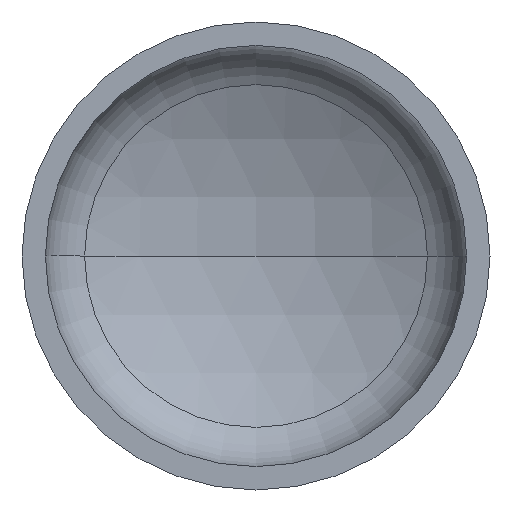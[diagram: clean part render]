
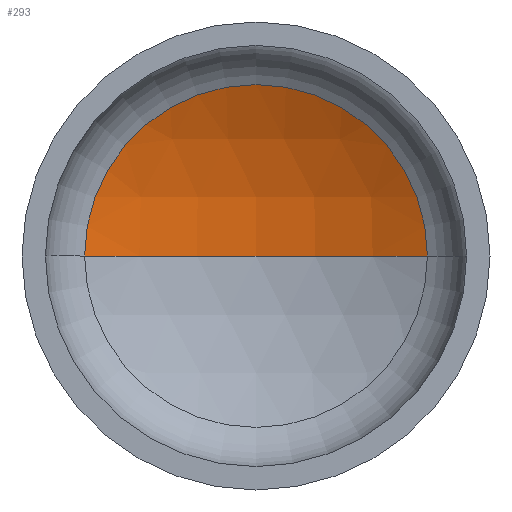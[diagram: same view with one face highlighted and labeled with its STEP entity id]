
A CAD part, front view. The second image highlights one B-rep face of the part: STEP entity #293.
In plain terms, the highlighted spherical face has radius 1760 mm.
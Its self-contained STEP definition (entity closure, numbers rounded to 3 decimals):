
#12 = ORIENTED_EDGE ( 'NONE', *, *, #174, .F. ) ;
#19 = EDGE_LOOP ( 'NONE', ( #12, #124, #98 ) ) ;
#27 = AXIS2_PLACEMENT_3D ( 'NONE', #165, #153, #278 ) ;
#35 = VERTEX_POINT ( 'NONE', #401 ) ;
#54 = AXIS2_PLACEMENT_3D ( 'NONE', #248, #247, #246 ) ;
#58 = AXIS2_PLACEMENT_3D ( 'NONE', #204, #205, #217 ) ;
#60 = AXIS2_PLACEMENT_3D ( 'NONE', #177, #327, #345 ) ;
#73 = VERTEX_POINT ( 'NONE', #222 ) ;
#98 = ORIENTED_EDGE ( 'NONE', *, *, #158, .T. ) ;
#116 = VERTEX_POINT ( 'NONE', #273 ) ;
#124 = ORIENTED_EDGE ( 'NONE', *, *, #160, .T. ) ;
#150 = SPHERICAL_SURFACE ( 'NONE', #27, 1760. ) ;
#153 = DIRECTION ( 'NONE',  ( 0., 0., -1. ) ) ;
#158 = EDGE_CURVE ( 'NONE', #116, #73, #313, .T. ) ;
#160 = EDGE_CURVE ( 'NONE', #35, #116, #306, .T. ) ;
#165 = CARTESIAN_POINT ( 'NONE',  ( 0., -1187.498, 0. ) ) ;
#174 = EDGE_CURVE ( 'NONE', #35, #73, #240, .T. ) ;
#177 = CARTESIAN_POINT ( 'NONE',  ( 0., 377.288, 0. ) ) ;
#204 = CARTESIAN_POINT ( 'NONE',  ( 0., -1187.498, 0. ) ) ;
#205 = DIRECTION ( 'NONE',  ( 0., 0., -1. ) ) ;
#217 = DIRECTION ( 'NONE',  ( -1., 0., 0. ) ) ;
#222 = CARTESIAN_POINT ( 'NONE',  ( -805.634, 377.288, 0. ) ) ;
#240 = CIRCLE ( 'NONE', #54, 1760. ) ;
#246 = DIRECTION ( 'NONE',  ( 1., 0., 0. ) ) ;
#247 = DIRECTION ( 'NONE',  ( 0., 0., 1. ) ) ;
#248 = CARTESIAN_POINT ( 'NONE',  ( 0., -1187.498, 0. ) ) ;
#273 = CARTESIAN_POINT ( 'NONE',  ( 805.634, 377.288, 0. ) ) ;
#278 = DIRECTION ( 'NONE',  ( -1., 0., 0. ) ) ;
#281 = FACE_OUTER_BOUND ( 'NONE', #19, .T. ) ;
#293 = ADVANCED_FACE ( 'NONE', ( #281 ), #150, .F. ) ;
#306 = CIRCLE ( 'NONE', #58, 1760. ) ;
#313 = CIRCLE ( 'NONE', #60, 805.634 ) ;
#327 = DIRECTION ( 'NONE',  ( 0., -1., 0. ) ) ;
#345 = DIRECTION ( 'NONE',  ( 1., 0., 0. ) ) ;
#401 = CARTESIAN_POINT ( 'NONE',  ( 0., 572.502, 0. ) ) ;
